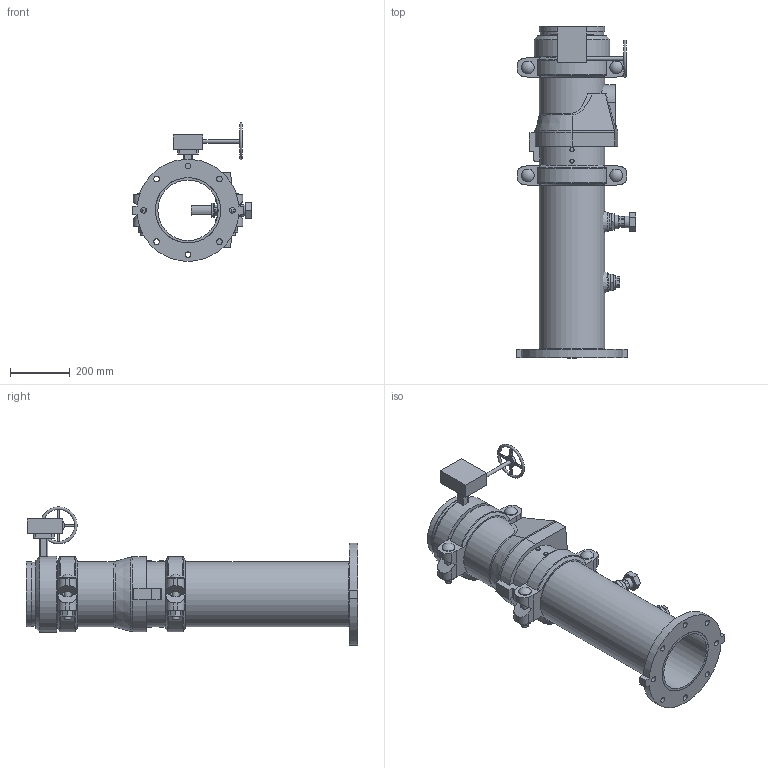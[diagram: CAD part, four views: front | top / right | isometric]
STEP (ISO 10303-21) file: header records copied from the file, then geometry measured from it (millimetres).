
FILE_DESCRIPTION(/* description */ ('VIC DVI PUMP DROP VERT S/380 (OGSxFLG) (S/924-1.25)','CAx-IF Rec.Pracs.---Representation and Presentation of Product Manufacturing Information (PMI)---4.0---2014-10-13'),/* implementation_level */ '2;1');
FILE_NAME(/* name */ 'C:\Users\Public\Documents\Victaulic.Temp\A765\Victaulic_IPS_Vertical DVI_CL 150_Series 380 (OGSxFLG)_924 (1.25)_08.0x08.0 (200x200).stp',/* time_stamp */ '2022-07-25T11:13:46+02:00',/* author */ ('Vjadhav'),/* organization */ ('Victaulic'),/* preprocessor_version */ 'ST-DEVELOPER v18',/* originating_system */ 'Autodesk Inventor 2020',/* authorisation */ '');
FILE_SCHEMA (('AP242_MANAGED_MODEL_BASED_3D_ENGINEERING_MIM_LF { 1 0 10303 442 1 1 4 }'));
Length unit declared in the file: inch
Products named in the file (8): 380_924 (1.25)-08.0x08.0; 741-08.0; Pipe-08.0x08.0; 177N-08.0; 779-08.0; 923-04.0x0.75; 924-04.0x01.25; 761-08.0
Assembly tree (8 placements, depth 2):
  380_924 (1.25)-08.0x08.0
    741-08.0
    Pipe-08.0x08.0
    177N-08.0  x2
    779-08.0
    923-04.0x0.75
    924-04.0x01.25
    761-08.0
Bounding box: 401.51 x 1114.55 x 464.41 mm (x, y, z)
Volume: 15440438.2 mm3; surface area: 2364259.6 mm2
Topology: 8 solids, 10 shells, 472 faces, 1245 edges, 833 vertices
Faces by surface type: plane 288, cylinder 149, torus 15, cone 14, sphere 4, bspline 2
Full cylindrical faces by diameter (mm): 8.636 x4, 12.446 x1, 12.7 x1, 13.716 x4, 19.05 x8, 21.336 x1, 22.225 x4, 22.86 x1, 26.67 x2, 38.608 x1, 39.125 x1, 42.164 x1, 42.85 x4, 45.974 x4, 48.514 x1, 55.118 x1, 55.626 x2, 202.717 x3, 206.375 x2, 214.401 x6, 219.075 x16, 254 x1
Entity records: 13288 total; most frequent: CARTESIAN_POINT 2798, DIRECTION 2135, ORIENTED_EDGE 1992, EDGE_CURVE 996, AXIS2_PLACEMENT_3D 802, VERTEX_POINT 669, LINE 531, VECTOR 531
